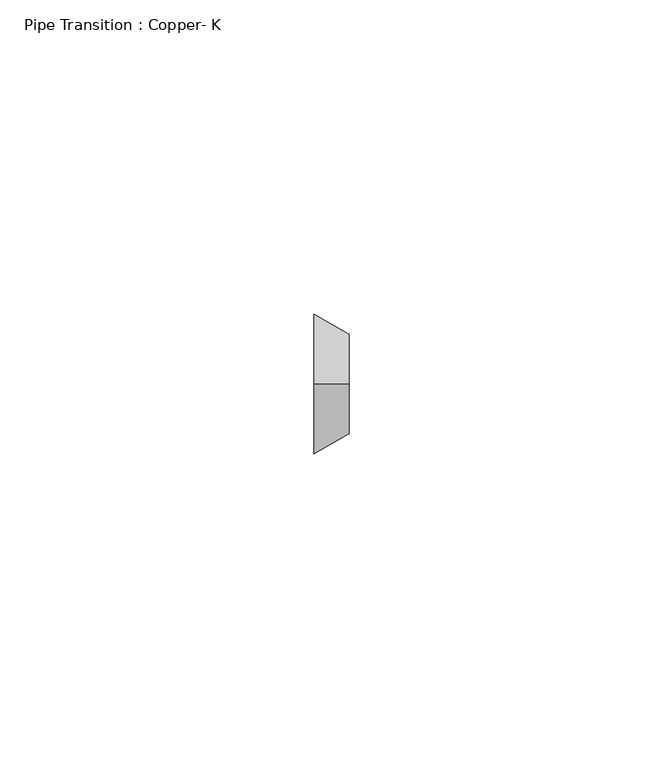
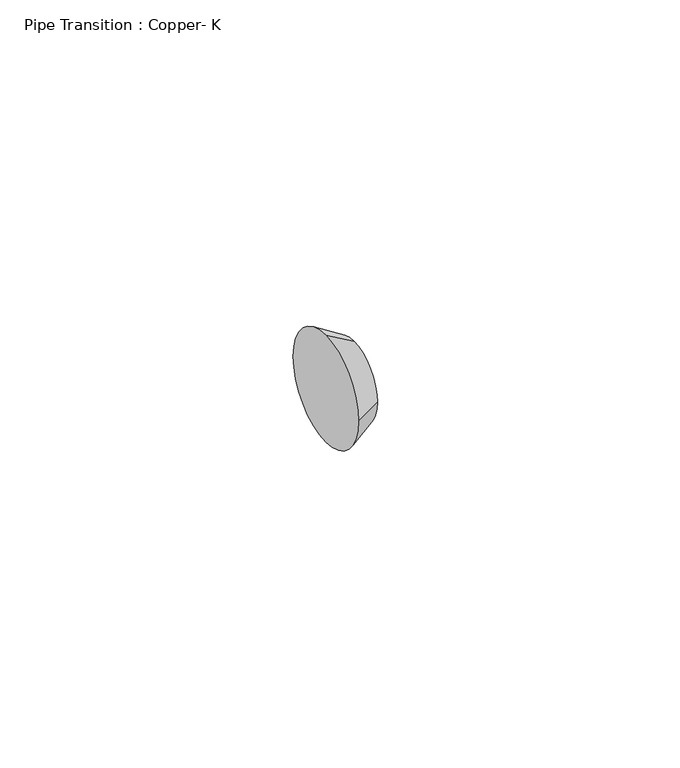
"""IFC4 building model written with IfcOpenShell, lengths in millimetres: pipe fitting geometry, Pipe Transition : Copper- K."""

from ifc_helpers import new_model, si_unit, frame, origin, place, context, project, spatial, polyline, circle_curve, source, transform, mapped, element, save
from ifc_brep_helpers import plane_surface, revolved_surface, advanced_brep


def pipe_transition_copper_k_7620e501(model_context):
    return source(origin(), model_context, "Body", "AdvancedBrep", [
        advanced_brep(
        [(5.55625, 0.0, 7.9375), (5.55625, -7.9375, 0.0), (5.55625, 0.0, -7.9375), (5.55625, 7.9375, 0.0), (0.0, 0.0, 11.1125), (0.0, 11.1125, 0.0), (0.0, 0.0, -11.1125), (0.0, -11.1125, 0.0)],
        [
            (0, 1, circle_curve(frame((5.55625, 0.0, 0.0), z_axis=(1.0, 0.0, 0.0), x_axis=(0.0, -1.0, 0.0)), 7.9375)),
            (1, 2, circle_curve(frame((5.55625, 0.0, 0.0), z_axis=(1.0, 0.0, 0.0), x_axis=(0.0, 0.0, -1.0)), 7.9375)),
            (2, 3, circle_curve(frame((5.55625, 0.0, 0.0), z_axis=(1.0, 0.0, 0.0), x_axis=(0.0, 1.0, 0.0)), 7.9375)),
            (3, 0, circle_curve(frame((5.55625, 0.0, 0.0), z_axis=(1.0, 0.0, 0.0), x_axis=(0.0, 0.0, 1.0)), 7.9375)),
            (4, 5, circle_curve(frame((0.0, 0.0, 0.0), z_axis=(-1.0, 0.0, 0.0), x_axis=(0.0, 0.0, 1.0)), 11.1125)),
            (5, 6, circle_curve(frame((0.0, 0.0, 0.0), z_axis=(-1.0, 0.0, 0.0), x_axis=(0.0, 1.0, 0.0)), 11.1125)),
            (6, 7, circle_curve(frame((0.0, 0.0, 0.0), z_axis=(-1.0, 0.0, 0.0), x_axis=(0.0, 0.0, -1.0)), 11.1125)),
            (7, 4, circle_curve(frame((0.0, 0.0, 0.0), z_axis=(-1.0, 0.0, 0.0), x_axis=(0.0, -1.0, 0.0)), 11.1125)),
            (4, 0),
            (3, 5),
            (2, 6),
            (1, 7),
        ],
        [
            plane_surface(frame((5.55625, 0.0, 0.0), z_axis=(1.0, 0.0, 0.0), x_axis=(0.0, 1.0, 0.0))),
            plane_surface(frame((0.0, 0.0, 0.0), z_axis=(-1.0, 0.0, 0.0), x_axis=(0.0, 1.0, 0.0))),
            revolved_surface(polyline([(5.556249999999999, 0.0, 7.937500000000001), (0.0, 0.0, 11.1125)]), (19.446875, 0.0, 0.0), (-1.0, 0.0, 0.0)),
            revolved_surface(polyline([(5.556249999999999, 7.937500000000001, 0.0), (0.0, 11.1125, 0.0)]), (19.446875, 0.0, 0.0), (-1.0, 0.0, 0.0)),
            revolved_surface(polyline([(5.556249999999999, 0.0, -7.937500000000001), (0.0, 0.0, -11.1125)]), (19.446875, 0.0, 0.0), (-1.0, 0.0, 0.0)),
            revolved_surface(polyline([(5.556249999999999, -7.937500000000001, 0.0), (0.0, -11.1125, 0.0)]), (19.446875, 0.0, 0.0), (-1.0, 0.0, 0.0)),
        ],
        [
            (0, [[1, 2, 3, 4]]),
            (1, [[5, 6, 7, 8]]),
            (2, [[9, -4, 10, -5]]),
            (3, [[-10, -3, 11, -6]]),
            (4, [[-11, -2, 12, -7]]),
            (5, [[-12, -1, -9, -8]]),
        ],
    ),
        advanced_brep(
        [(5.55625, 0.0, 7.9375), (5.55625, -7.9375, 0.0), (5.55625, 0.0, -7.9375), (5.55625, 7.9375, 0.0), (0.0, 0.0, 11.1125), (0.0, 11.1125, 0.0), (0.0, 0.0, -11.1125), (0.0, -11.1125, 0.0)],
        [
            (0, 1, circle_curve(frame((5.55625, 0.0, 0.0), z_axis=(1.0, 0.0, 0.0), x_axis=(0.0, -1.0, 0.0)), 7.9375)),
            (1, 2, circle_curve(frame((5.55625, 0.0, 0.0), z_axis=(1.0, 0.0, -2.3477799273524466e-12), x_axis=(-2.347822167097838e-12, 0.0, -1.0)), 7.9375)),
            (2, 3, circle_curve(frame((5.55625, 0.0, 0.0), z_axis=(1.0, 0.0, -1.4459954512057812e-12), x_axis=(0.0, 1.0, 0.0)), 7.9375)),
            (3, 0, circle_curve(frame((5.55625, 0.0, 0.0), z_axis=(1.0, 0.0, -1.5068991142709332e-12), x_axis=(1.5068847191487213e-12, 0.0, 1.0)), 7.9375)),
            (4, 5, circle_curve(frame((0.0, 0.0, 0.0), z_axis=(-1.0, 0.0, 1.5068991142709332e-12), x_axis=(1.5068847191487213e-12, 0.0, 1.0)), 11.1125)),
            (5, 6, circle_curve(frame((0.0, 0.0, 0.0), z_axis=(-1.0, 0.0, 1.4459954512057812e-12), x_axis=(0.0, 1.0, 0.0)), 11.1125)),
            (6, 7, circle_curve(frame((0.0, 0.0, 0.0), z_axis=(-1.0, 0.0, 2.3477799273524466e-12), x_axis=(-2.347822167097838e-12, 0.0, -1.0)), 11.1125)),
            (7, 4, circle_curve(frame((0.0, 0.0, 0.0), z_axis=(-1.0, 0.0, 0.0), x_axis=(0.0, -1.0, 0.0)), 11.1125)),
            (4, 0),
            (3, 5),
            (2, 6),
            (1, 7),
        ],
        [
            plane_surface(frame((5.55625, 0.0, 0.0), z_axis=(1.0, 0.0, 0.0), x_axis=(0.0, 1.0, 0.0))),
            plane_surface(frame((0.0, 0.0, 0.0), z_axis=(-1.0, 0.0, 0.0), x_axis=(0.0, 1.0, 0.0))),
            revolved_surface(polyline([(5.556250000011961, 0.0, 7.9374999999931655), (0.0, 0.0, 11.1125)]), (19.446875, 0.0, 0.0), (-1.0, 0.0, 1.5068991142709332e-12)),
            revolved_surface(polyline([(5.556250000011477, 7.937499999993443, 0.0), (0.0, 11.1125, 0.0)]), (19.446875, 0.0, 0.0), (-1.0, 0.0, 1.4459954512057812e-12)),
            revolved_surface(polyline([(5.556249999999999, 0.0, -7.937500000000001), (-2.609112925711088e-11, 0.0, -11.11250000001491)]), (19.446875, 0.0, 0.0), (-1.0, 0.0, 2.3477799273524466e-12)),
            revolved_surface(polyline([(5.556249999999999, -7.937500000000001, 0.0), (0.0, -11.1125, 0.0)]), (19.446875, 0.0, 0.0), (-1.0, 0.0, 0.0)),
        ],
        [
            (0, [[1, 2, 3, 4]]),
            (1, [[5, 6, 7, 8]]),
            (2, [[9, -4, 10, -5]]),
            (3, [[-10, -3, 11, -6]]),
            (4, [[-11, -2, 12, -7]]),
            (5, [[-12, -1, -9, -8]]),
        ],
    ),
    ])


if __name__ == "__main__":
    model = new_model("IFC4")
    model_context = context("Model", 3, world=origin())
    ifc_project = project(units=[si_unit("LENGTHUNIT", "METRE", prefix="MILLI")], contexts=[model_context])
    site = spatial("IfcSite", under=ifc_project)
    building = spatial("IfcBuilding", under=site)
    placement = place(None, origin())
    pipe_transition_copper_k_shape = pipe_transition_copper_k_7620e501(model_context)
    element("IfcPipeFitting", 1, ObjectType="Pipe Transition : Copper- K", at=placement, inside=building, context=model_context, shape_type="MappedRepresentation", body=[
        mapped(pipe_transition_copper_k_shape, transform((0.0, 0.0, 0.0), x_axis=(1.0, 0.0, 0.0), y_axis=(0.0, 1.0, 0.0), z_axis=(0.0, 0.0, 1.0))),
    ])
    save(model, "model.ifc")
